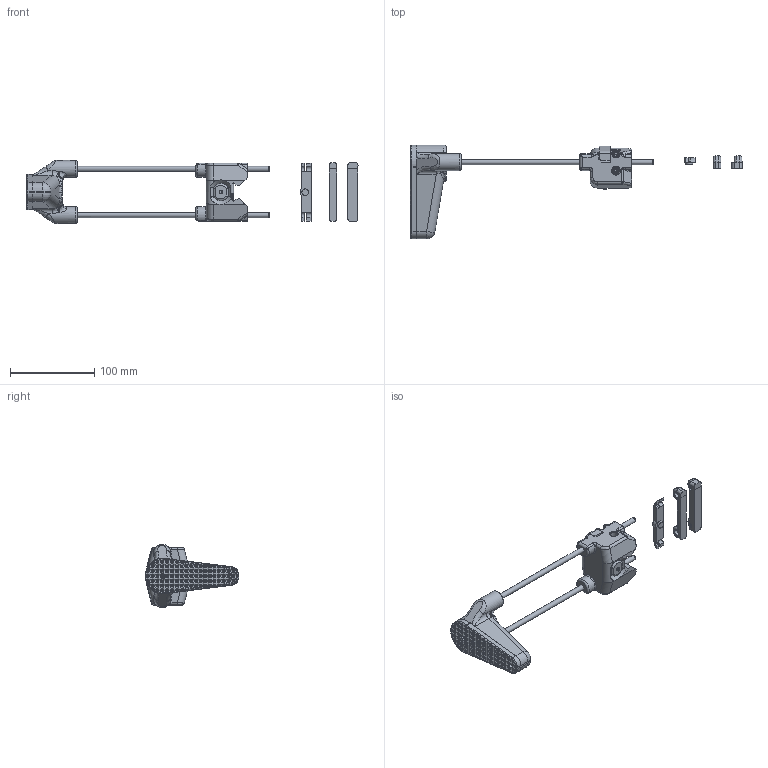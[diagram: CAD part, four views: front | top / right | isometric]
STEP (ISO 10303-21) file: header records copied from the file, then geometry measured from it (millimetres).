
FILE_DESCRIPTION(/* description */ (''),/* implementation_level */ '2;1');
FILE_NAME(/* name */ 'C:/Users/Jacob/Desktop/Daikon_FF2 Sliding Stock/MP5 A3 Style Sliding Stock_SAE.step',/* time_stamp */ '2021-10-26T22:35:49-04:00',/* author */ (''),/* organization */ (''),/* preprocessor_version */ 'ST-DEVELOPER v18.1',/* originating_system */ 'Autodesk Translation Framework v10.10.0.1391',/* authorisation */ '');
FILE_SCHEMA (('AUTOMOTIVE_DESIGN { 1 0 10303 214 3 1 1 }'));
Products named in the file (4): mp5a3_improved button_SAE; 90044A512_Black-Oxide Alloy Steel Socket Head Screw; 91290A145_Black-Oxide Alloy Steel Socket Head Screw; 91828A231_18-8 Stainless Steel Hex Nut
Assembly tree (5 placements, depth 2):
  mp5a3_improved button_SAE
    90044A512_Black-Oxide Alloy Steel Socket Head Screw
    91290A145_Black-Oxide Alloy Steel Socket Head Screw  x2
    91828A231_18-8 Stainless Steel Hex Nut  x2
Bounding box: 393.15 x 111.08 x 74.64 mm (x, y, z)
Volume: 267717.1 mm3; surface area: 87610.4 mm2
Topology: 15 solids, 15 shells, 1587 faces, 3944 edges, 2395 vertices
Faces by surface type: plane 738, cylinder 384, bspline 331, cone 93, torus 31, sphere 10
Full cylindrical faces by diameter (mm): 2.5 x2, 3.091 x56, 3.134 x56, 3.5 x1, 3.7 x2, 4 x60, 4.166 x55, 4.3 x2, 4.5 x1, 6 x3, 6.2 x2, 6.5 x6, 6.8 x2, 6.858 x1, 7 x2, 7.5 x1, 8 x2, 8.5 x3, 13 x1, 20 x3, 25.45 x1
Entity records: 61731 total; most frequent: CARTESIAN_POINT 28841, ORIENTED_EDGE 7286, DIRECTION 6297, EDGE_CURVE 3643, VERTEX_POINT 2207, AXIS2_PLACEMENT_3D 2200, LINE 1897, VECTOR 1897
